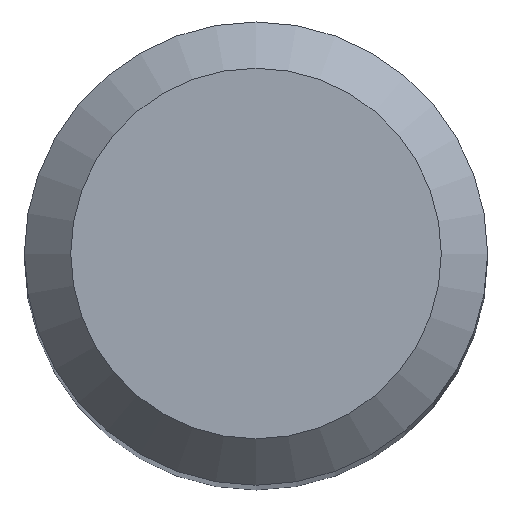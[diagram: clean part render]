
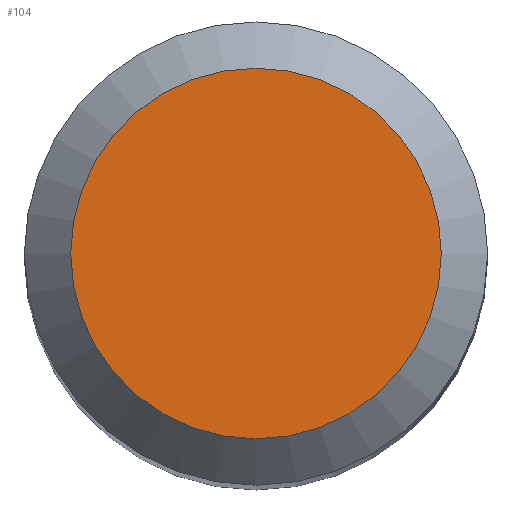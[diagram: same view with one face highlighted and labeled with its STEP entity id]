
A CAD part, top view. The second image highlights one B-rep face of the part: STEP entity #104.
In plain terms, the highlighted planar face has unit normal (0, 0, 1).
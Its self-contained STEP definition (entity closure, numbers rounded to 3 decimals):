
#88=CARTESIAN_POINT('',(3.2,0.0,100.0));
#89=DIRECTION('',(0.0,0.0,1.0));
#90=DIRECTION('',(1.0,0.0,0.0));
#91=AXIS2_PLACEMENT_3D('',#88,#89,#90);
#92=PLANE('',#91);
#93=CARTESIAN_POINT('',(-3.2,0.0,100.0));
#94=VERTEX_POINT('',#93);
#95=CARTESIAN_POINT('',(0.0,0.0,100.0));
#96=DIRECTION('',(0.0,0.0,-1.0));
#97=DIRECTION('',(-1.0,0.0,0.0));
#98=AXIS2_PLACEMENT_3D('',#95,#96,#97);
#99=CIRCLE('',#98,3.2);
#100=EDGE_CURVE('',#94,#94,#99,.T.);
#101=ORIENTED_EDGE('',*,*,#100,.F.);
#102=EDGE_LOOP('',(#101));
#103=FACE_OUTER_BOUND('',#102,.T.);
#104=ADVANCED_FACE('',(#103),#92,.T.);
